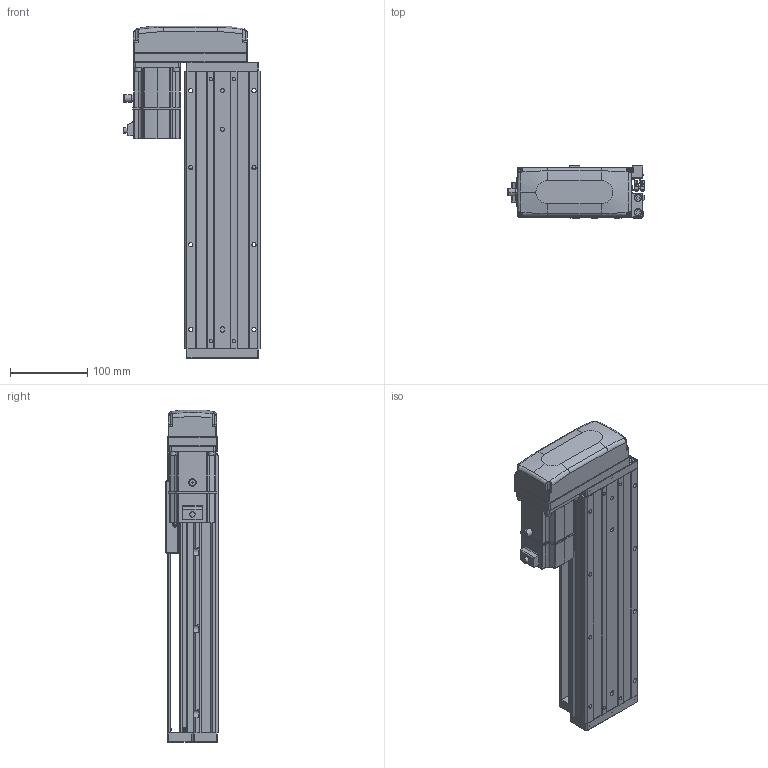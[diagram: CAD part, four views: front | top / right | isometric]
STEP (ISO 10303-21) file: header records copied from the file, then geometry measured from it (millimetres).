
FILE_DESCRIPTION (( 'STEP AP203' ), '1' );
FILE_NAME ('KTHA100-200-BR-M20-C4L.step', '2022-04-26T01:58:57', ( '微软用户' ), ( '微软中国' ), 'SwSTEP 2.0', 'SolidWorks 2020', '' );
FILE_SCHEMA (( 'CONFIG_CONTROL_DESIGN' ));
Length unit declared in the file: millimetre
Products named in the file (17): _X2_4E0983F1_X0_200W_1; KTHA100-001_360; CTHA60-021; CTHA86-015-1_CTHA86-015-2; KTHA100-002; GBT77-2000 M3×3; CTHA86-033; KTHA100-004; GBT 70.1-M3℅6; KTHA100-200-BR-M20-C4L; KTHA100-005; GBT70.1 M5℅16; GB¨uT 70.2-M3¡Á5_M3¡Á6; CTHA60-016; EE_SX911P_R; GBT 70.3-M3℅6; CTHA60-017
Assembly tree (57 placements, depth 2):
  KTHA100-200-BR-M20-C4L
    KTHA100-001_360
    KTHA100-002
    KTHA100-004
    KTHA100-005
    GB¨uT 70.2-M3¡Á5_M3¡Á6  x6
    EE_SX911P_R  x3
    CTHA60-017  x3
    CTHA60-021  x2
    GBT77-2000 M3×3  x6
    GBT 70.1-M3℅6  x10
    GBT70.1 M5℅16  x14
    CTHA60-016  x2
    GBT 70.3-M3℅6  x4
    _X2_4E0983F1_X0_200W_1
    CTHA86-015-1_CTHA86-015-2
    CTHA86-033
Bounding box: 178.52 x 68 x 431 mm (x, y, z)
Volume: 2269463.6 mm3; surface area: 379602.3 mm2
Topology: 60 solids, 60 shells, 2357 faces, 5609 edges, 3472 vertices
Faces by surface type: plane 1196, cylinder 653, cone 301, torus 116, bspline 75, sphere 16
Entity records: 39364 total; most frequent: CARTESIAN_POINT 8000, DIRECTION 6052, ORIENTED_EDGE 5830, EDGE_CURVE 2915, AXIS2_PLACEMENT_3D 2132, VERTEX_POINT 1832, VECTOR 1788, LINE 1788
